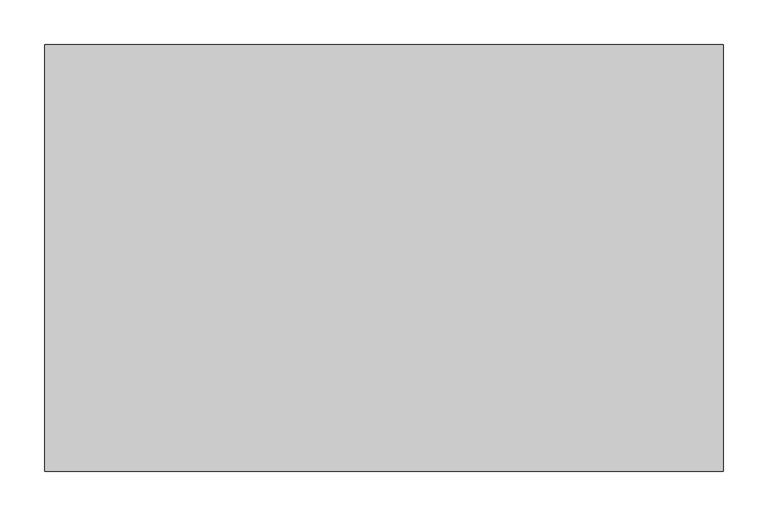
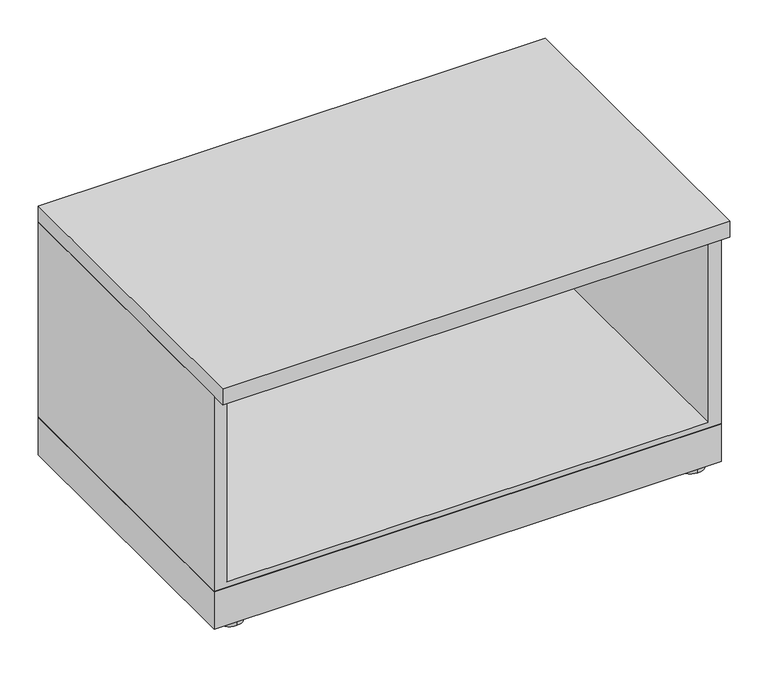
"""IFC4 building model written with IfcOpenShell, lengths in millimetres: furniture geometry, Steelcase - Universal Storage - Lateral File - 1 High - Proud Front : Open - 18 7/8D x 30W."""

from ifc_helpers import new_model, si_unit, point, frame, frame_2d, origin, origin_with_axes, place, context, project, spatial, polyline, circle_curve, trimmed, segment, composite_curve, outline, extrude, source, transform, mapped, element, save


def furniture_785bda99(model_context):
    return source(origin(), model_context, "Body", "SweptSolid", [
        extrude(outline(polyline([(762.0, 0.0), (762.0, -457.2), (0.0, -457.2), (0.0, 0.0), (762.0, 0.0)])), frame((0.0, 0.0, 6.3500002), z_axis=(0.0, 0.0, 1.0), x_axis=(1.0, 0.0, 0.0)), (0.0, 0.0, 1.0), 59.6899998),
        extrude(outline(composite_curve([segment(trimmed(circle_curve(frame_2d((727.3290058, -22.3366334)), 20.32), [point((727.3290058, -42.6566334))], [point((727.3290058, -2.0166334))], False, "CARTESIAN"), True, "CONTINUOUS"), segment(trimmed(circle_curve(frame_2d((727.3290058, -22.3366334)), 20.32), [point((727.3290058, -2.0166334))], [point((727.3290058, -42.6566334))], False, "CARTESIAN"), True, "CONTINUOUS")], self_intersect=False)), origin_with_axes(), (0.0, 0.0, 1.0), 6.3500002),
        extrude(outline(composite_curve([segment(trimmed(circle_curve(frame_2d((727.3290058, -436.4508545)), 20.32), [point((727.3290058, -456.7708545))], [point((727.3290058, -416.1308545))], False, "CARTESIAN"), True, "CONTINUOUS"), segment(trimmed(circle_curve(frame_2d((727.3290058, -436.4508545)), 20.32), [point((727.3290058, -416.1308545))], [point((727.3290058, -456.7708545))], False, "CARTESIAN"), True, "CONTINUOUS")], self_intersect=False)), origin_with_axes(), (0.0, 0.0, 1.0), 6.3500002),
        extrude(outline(composite_curve([segment(trimmed(circle_curve(frame_2d((34.29, -22.3366334)), 20.32), [point((34.29, -2.0166334))], [point((34.29, -42.6566334))], False, "CARTESIAN"), True, "CONTINUOUS"), segment(trimmed(circle_curve(frame_2d((34.29, -22.3366334)), 20.32), [point((34.29, -42.6566334))], [point((34.29, -2.0166334))], False, "CARTESIAN"), True, "CONTINUOUS")], self_intersect=False)), origin_with_axes(), (0.0, 0.0, 1.0), 6.3500002),
        extrude(outline(composite_curve([segment(trimmed(circle_curve(frame_2d((34.29, -436.4508545)), 20.32), [point((34.29, -416.1308545))], [point((34.29, -456.7708545))], False, "CARTESIAN"), True, "CONTINUOUS"), segment(trimmed(circle_curve(frame_2d((34.29, -436.4508545)), 20.32), [point((34.29, -456.7708545))], [point((34.29, -416.1308545))], False, "CARTESIAN"), True, "CONTINUOUS")], self_intersect=False)), origin_with_axes(), (0.0, 0.0, 1.0), 6.3500002),
        extrude(outline(polyline([(376.301, 19.05), (376.301, 0.0), (66.04, 0.0), (66.04, 762.0), (376.301, 762.0), (376.301, 742.95), (75.184001, 742.95), (75.184001, 19.05), (376.301, 19.05)])), frame((0.0, -457.0730121, 0.0), z_axis=(0.0, 1.0, 0.0), x_axis=(0.0, 0.0, 1.0)), (0.0, 0.0, 1.0), 457.0730121),
        extrude(outline(polyline([(742.95, 0.0), (742.95, -3.9370001), (19.05, -3.9370001), (19.05, 0.0), (742.95, 0.0)])), frame((0.0, 0.0, 75.184001), z_axis=(0.0, 0.0, 1.0), x_axis=(1.0, 0.0, 0.0)), (0.0, 0.0, 1.0), 301.116999),
        extrude(outline(polyline([(762.0, 0.0), (762.0, -479.298), (0.0, -479.298), (0.0, 0.0), (762.0, 0.0)])), frame((0.0, 0.0, 376.301), z_axis=(0.0, 0.0, 1.0), x_axis=(1.0, 0.0, 0.0)), (0.0, 0.0, 1.0), 25.3999893),
    ])


if __name__ == "__main__":
    model = new_model("IFC4")
    model_context = context("Model", 3, world=origin())
    ifc_project = project(units=[si_unit("LENGTHUNIT", "METRE", prefix="MILLI")], contexts=[model_context])
    site = spatial("IfcSite", under=ifc_project)
    building = spatial("IfcBuilding", under=site)
    placement = place(None, origin())
    furniture_shape = furniture_785bda99(model_context)
    element("IfcFurniture", 1, ObjectType="Steelcase - Universal Storage - Lateral File - 1 High - Proud Front : Open - 18 7/8D x 30W", at=placement, inside=building, context=model_context, shape_type="MappedRepresentation", body=[
        mapped(furniture_shape, transform((0.0, 0.0, 0.0), x_axis=(1.0, 0.0, 0.0), y_axis=(0.0, 1.0, 0.0), z_axis=(0.0, 0.0, 1.0))),
    ])
    save(model, "model.ifc")
